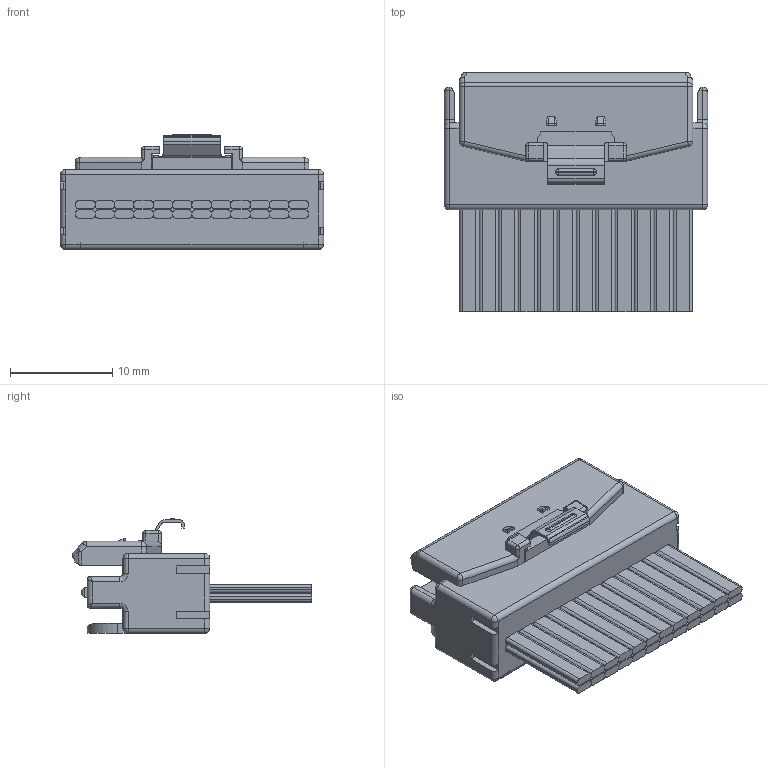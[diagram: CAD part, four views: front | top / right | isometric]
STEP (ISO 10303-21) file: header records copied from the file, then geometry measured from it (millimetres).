
FILE_DESCRIPTION((''),'2;1');
FILE_NAME('STR_ASM','2018-03-19T',('bobtang'),(''),'CREO PARAMETRIC BY PTC INC, 2014190','CREO PARAMETRIC BY PTC INC, 2014190','');
FILE_SCHEMA(('STRUCTURAL_ANALYSIS_DESIGN'));
Length unit declared in the file: millimetre
Products named in the file (3): LP_X8_STR_SLIMSAS_25_8MM_PLUG_2; 30AWG_CABE; STR_ASM
Assembly tree (25 placements, depth 2):
  STR_ASM
    LP_X8_STR_SLIMSAS_25_8MM_PLUG_2
    30AWG_CABE  x24
Bounding box: 25.8 x 23.48 x 11.26 mm (x, y, z)
Volume: 2543.8 mm3; surface area: 3263.7 mm2
Topology: 25 solids, 25 shells, 856 faces, 2292 edges, 1469 vertices
Faces by surface type: plane 542, cylinder 203, extrusion 73, sphere 18, torus 12, bspline 8
Entity records: 20607 total; most frequent: CARTESIAN_POINT 4721, ORIENTED_EDGE 3444, DIRECTION 2952, EDGE_CURVE 1722, VECTOR 1364, LINE 1291, VERTEX_POINT 1101, AXIS2_PLACEMENT_3D 794
